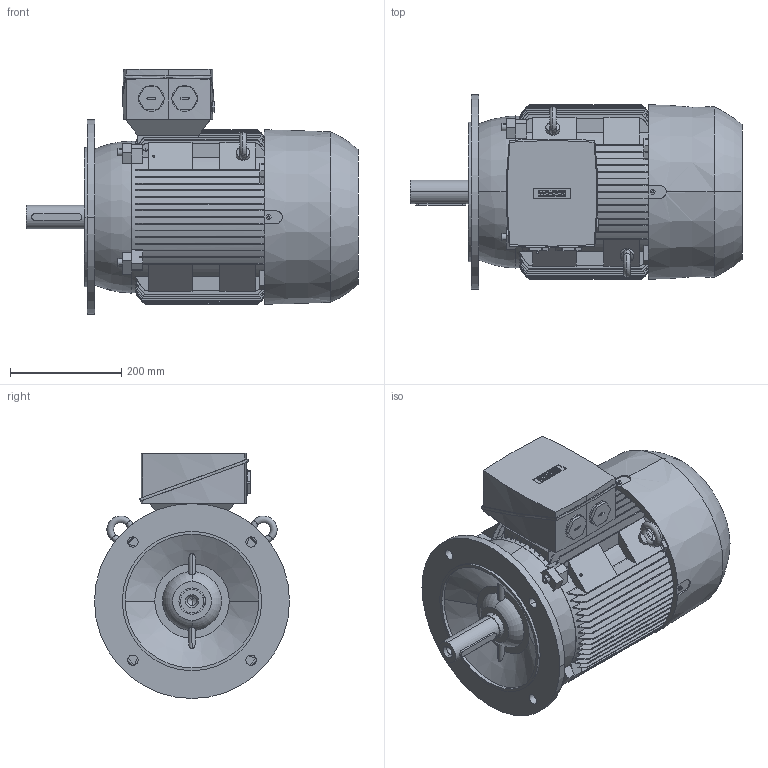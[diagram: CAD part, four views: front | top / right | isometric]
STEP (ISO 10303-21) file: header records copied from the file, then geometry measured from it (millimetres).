
FILE_DESCRIPTION(('STEP AP214'),'1');
FILE_NAME('cctmp_E9A4EDEB-6B0A-484E-BDBB-CA2C7A5CBDC8_2026_04_16_11_47_08_0577_33052..stp','2026-04-16T09:47:09',('KiM GmbH'),('CADClick - www.CADClick.com'),'Spatial InterOp 3D',' ','unknown authorization');
FILE_SCHEMA(('AUTOMOTIVE_DESIGN'));
Length unit declared in the file: millimetre
Products named in the file (1): 2026_04_16_11_47_08_0576
Bounding box: 596 x 350 x 440 mm (x, y, z)
Volume: 34502728.9 mm3; surface area: 1407808.6 mm2
Topology: 7 solids, 7 shells, 1051 faces, 2875 edges, 1896 vertices
Faces by surface type: plane 627, cylinder 256, torus 146, cone 22
Entity records: 50001 total; most frequent: CARTESIAN_POINT 15432, ORIENTED_EDGE 5750, DIRECTION 5016, EDGE_CURVE 2873, VERTEX_POINT 1896, LINE 1682, VECTOR 1682, AXIS2_PLACEMENT_3D 1667
